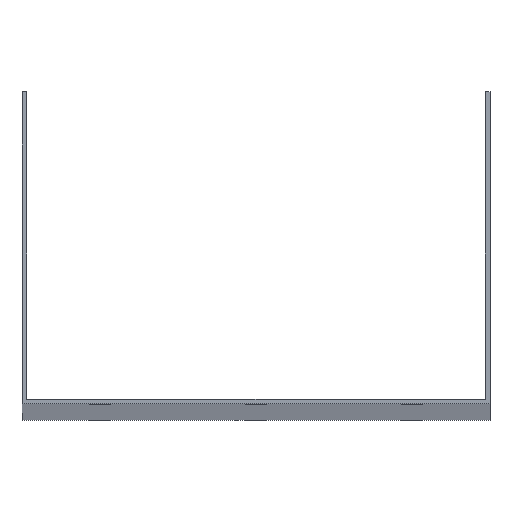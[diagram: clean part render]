
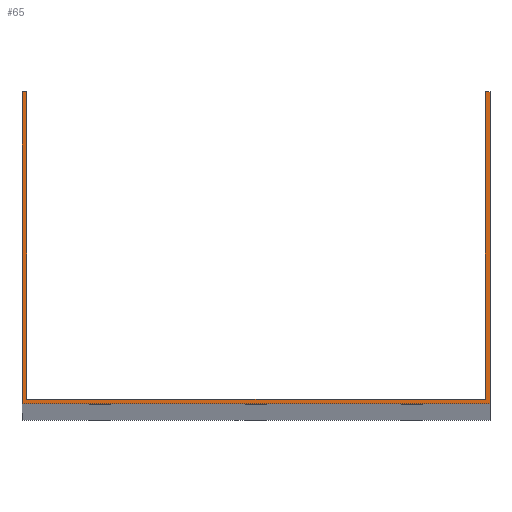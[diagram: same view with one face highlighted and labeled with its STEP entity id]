
A CAD part, top view. The second image highlights one B-rep face of the part: STEP entity #65.
In plain terms, the highlighted planar face has unit normal (0, 0, 1).
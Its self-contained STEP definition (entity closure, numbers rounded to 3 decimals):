
#65 = ADVANCED_FACE ( 'NONE', ( #2042 ), #3598, .T. ) ;
#79 = EDGE_LOOP ( 'NONE', ( #475, #1793, #1143, #1456, #3439, #296, #3843, #3457 ) ) ;
#149 = DIRECTION ( 'NONE',  ( 1., 0., 0. ) ) ;
#170 = DIRECTION ( 'NONE',  ( 1., 0., 0. ) ) ;
#171 = VERTEX_POINT ( 'NONE', #2156 ) ;
#239 = CARTESIAN_POINT ( 'NONE',  ( -73.5, 100., 1500. ) ) ;
#296 = ORIENTED_EDGE ( 'NONE', *, *, #2919, .T. ) ;
#423 = DIRECTION ( 'NONE',  ( 0., 1., 0. ) ) ;
#475 = ORIENTED_EDGE ( 'NONE', *, *, #1337, .F. ) ;
#673 = VECTOR ( 'NONE', #2955, 1000. ) ;
#743 = CARTESIAN_POINT ( 'NONE',  ( 73.5, 100., 1500. ) ) ;
#756 = DIRECTION ( 'NONE',  ( 0., 0., 1. ) ) ;
#799 = VERTEX_POINT ( 'NONE', #3293 ) ;
#988 = DIRECTION ( 'NONE',  ( -1., 0., 0. ) ) ;
#993 = VERTEX_POINT ( 'NONE', #3269 ) ;
#1053 = EDGE_CURVE ( 'NONE', #2039, #799, #1377, .T. ) ;
#1125 = VERTEX_POINT ( 'NONE', #1487 ) ;
#1143 = ORIENTED_EDGE ( 'NONE', *, *, #2106, .T. ) ;
#1215 = EDGE_CURVE ( 'NONE', #171, #2864, #3644, .T. ) ;
#1298 = CARTESIAN_POINT ( 'NONE',  ( 73.5, 1.5, 1500. ) ) ;
#1337 = EDGE_CURVE ( 'NONE', #1125, #171, #2826, .T. ) ;
#1377 = LINE ( 'NONE', #2002, #2774 ) ;
#1456 = ORIENTED_EDGE ( 'NONE', *, *, #2700, .T. ) ;
#1487 = CARTESIAN_POINT ( 'NONE',  ( -73.5, 100., 1500. ) ) ;
#1591 = CARTESIAN_POINT ( 'NONE',  ( -75., 100., 1500. ) ) ;
#1782 = VECTOR ( 'NONE', #2482, 1000. ) ;
#1793 = ORIENTED_EDGE ( 'NONE', *, *, #2522, .T. ) ;
#1837 = DIRECTION ( 'NONE',  ( 0., -1., 0. ) ) ;
#1859 = CARTESIAN_POINT ( 'NONE',  ( 75., 0., 1500. ) ) ;
#1920 = DIRECTION ( 'NONE',  ( 1., 0., 0. ) ) ;
#1969 = AXIS2_PLACEMENT_3D ( 'NONE', #3919, #756, #149 ) ;
#2002 = CARTESIAN_POINT ( 'NONE',  ( 75., 100., 1500. ) ) ;
#2039 = VERTEX_POINT ( 'NONE', #1859 ) ;
#2042 = FACE_OUTER_BOUND ( 'NONE', #79, .T. ) ;
#2106 = EDGE_CURVE ( 'NONE', #2751, #993, #2807, .T. ) ;
#2156 = CARTESIAN_POINT ( 'NONE',  ( -73.5, 1.5, 1500. ) ) ;
#2203 = LINE ( 'NONE', #3465, #3521 ) ;
#2229 = VERTEX_POINT ( 'NONE', #3237 ) ;
#2338 = LINE ( 'NONE', #3557, #3578 ) ;
#2482 = DIRECTION ( 'NONE',  ( 0., -1., 0. ) ) ;
#2522 = EDGE_CURVE ( 'NONE', #1125, #2751, #2338, .T. ) ;
#2654 = VECTOR ( 'NONE', #988, 1000. ) ;
#2700 = EDGE_CURVE ( 'NONE', #993, #2039, #2203, .T. ) ;
#2751 = VERTEX_POINT ( 'NONE', #3781 ) ;
#2774 = VECTOR ( 'NONE', #423, 1000. ) ;
#2807 = LINE ( 'NONE', #1591, #1782 ) ;
#2826 = LINE ( 'NONE', #239, #3180 ) ;
#2864 = VERTEX_POINT ( 'NONE', #1298 ) ;
#2919 = EDGE_CURVE ( 'NONE', #799, #2229, #3840, .T. ) ;
#2932 = DIRECTION ( 'NONE',  ( -1., 0., 0. ) ) ;
#2955 = DIRECTION ( 'NONE',  ( 0., 1., 0. ) ) ;
#3180 = VECTOR ( 'NONE', #1837, 1000. ) ;
#3237 = CARTESIAN_POINT ( 'NONE',  ( 73.5, 100., 1500. ) ) ;
#3269 = CARTESIAN_POINT ( 'NONE',  ( -75., 0., 1500. ) ) ;
#3274 = LINE ( 'NONE', #743, #673 ) ;
#3293 = CARTESIAN_POINT ( 'NONE',  ( 75., 100., 1500. ) ) ;
#3399 = EDGE_CURVE ( 'NONE', #2864, #2229, #3274, .T. ) ;
#3439 = ORIENTED_EDGE ( 'NONE', *, *, #1053, .T. ) ;
#3457 = ORIENTED_EDGE ( 'NONE', *, *, #1215, .F. ) ;
#3465 = CARTESIAN_POINT ( 'NONE',  ( -75., 0., 1500. ) ) ;
#3521 = VECTOR ( 'NONE', #1920, 1000. ) ;
#3522 = CARTESIAN_POINT ( 'NONE',  ( -75., 100., 1500. ) ) ;
#3557 = CARTESIAN_POINT ( 'NONE',  ( -75., 100., 1500. ) ) ;
#3578 = VECTOR ( 'NONE', #2932, 1000. ) ;
#3598 = PLANE ( 'NONE',  #1969 ) ;
#3599 = CARTESIAN_POINT ( 'NONE',  ( -75., 1.5, 1500. ) ) ;
#3644 = LINE ( 'NONE', #3599, #4049 ) ;
#3781 = CARTESIAN_POINT ( 'NONE',  ( -75., 100., 1500. ) ) ;
#3840 = LINE ( 'NONE', #3522, #2654 ) ;
#3843 = ORIENTED_EDGE ( 'NONE', *, *, #3399, .F. ) ;
#3919 = CARTESIAN_POINT ( 'NONE',  ( 0., 0., 1500. ) ) ;
#4049 = VECTOR ( 'NONE', #170, 1000. ) ;
